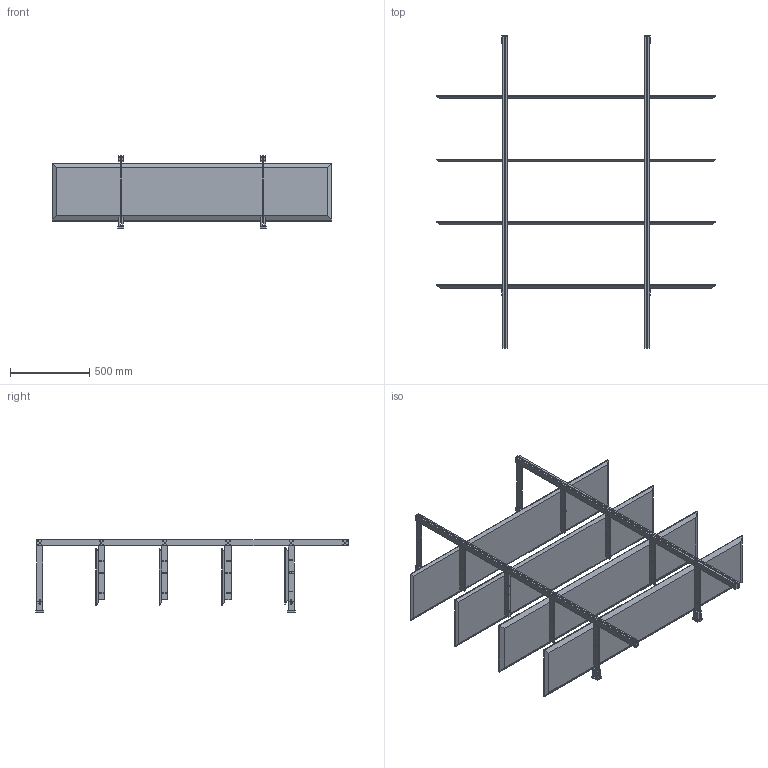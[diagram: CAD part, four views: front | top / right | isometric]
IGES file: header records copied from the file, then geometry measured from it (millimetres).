
Start section: SolidWorks IGES file using analytic representation for surfaces
Global section: file name: K:\C_TEC\2D - 3D - RENDER\ARTICOLI FRAG\3D_Frag a listino\Morgans_FG50700_3D\FG 507.00 - FLAT_3D\Untitled.igs; native system: Rhinoceros ( Mar  9 2011 ); preprocessor: Trout Lake IGES 012 Mar  9 2011; date: 210303.090652; units: millimetre
Bounding box: 1770 x 1975 x 459.7 mm (x, y, z)
Surface area: 6552972.3 mm2 (no closed solid volume)
Topology: 0 solids, 0 shells, 1172 faces, 17372 edges, 17164 vertices
Faces by surface type: bspline 1172
